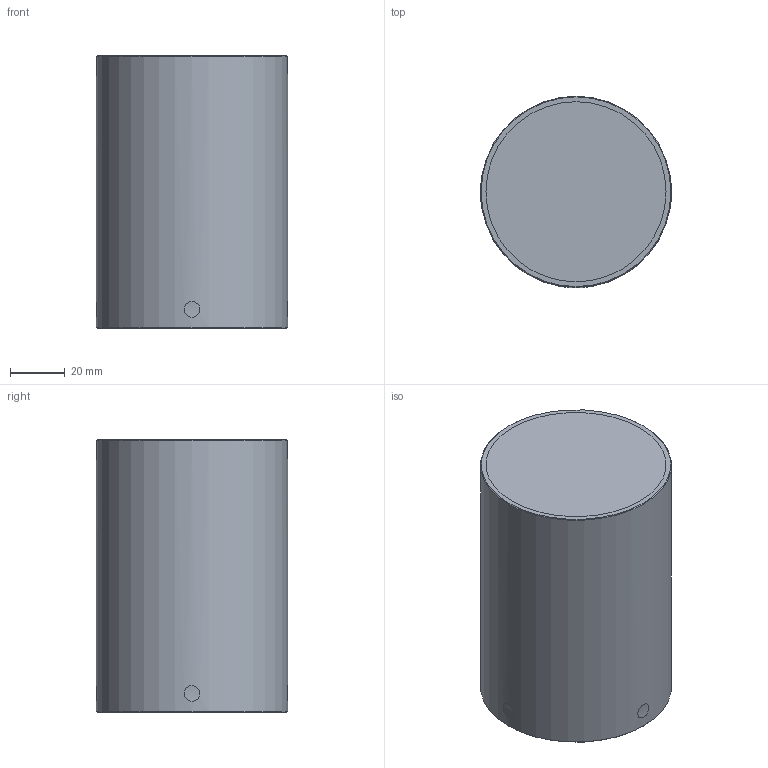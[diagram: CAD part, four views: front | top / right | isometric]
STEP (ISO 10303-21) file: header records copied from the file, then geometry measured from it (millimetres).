
FILE_DESCRIPTION(/* description */ (''),/* implementation_level */ '2;1');
FILE_NAME(/* name */ 'LA-3060-4539-A_UCT 100MM SPACER.stp',/* time_stamp */ '2026-03-17T14:44:16Z',/* author */ (''),/* organization */ (''),/* preprocessor_version */ 'ST-DEVELOPER v20',/* originating_system */ 'SIEMENS PLM Software NX2312.9162',/* authorisation */ '');
FILE_SCHEMA (('AUTOMOTIVE_DESIGN { 1 0 10303 214 3 1 1 1 }'));
Length unit declared in the file: millimetre
Products named in the file (1): LA-3060-4539_objects
Bounding box: 70 x 70 x 100 mm (x, y, z)
Volume: 384831.4 mm3; surface area: 29623.5 mm2
Topology: 1 solids, 1 shells, 11 faces, 15 edges, 11 vertices
Faces by surface type: cylinder 5, plane 4, cone 2
Full cylindrical faces by diameter (mm): 70 x1
Entity records: 366 total; most frequent: CARTESIAN_POINT 128, DIRECTION 36, EDGE_LOOP 20, ORIENTED_EDGE 20, AXIS2_PLACEMENT_3D 18, FACE_BOUND 14, ADVANCED_FACE 11, VERTEX_POINT 10
